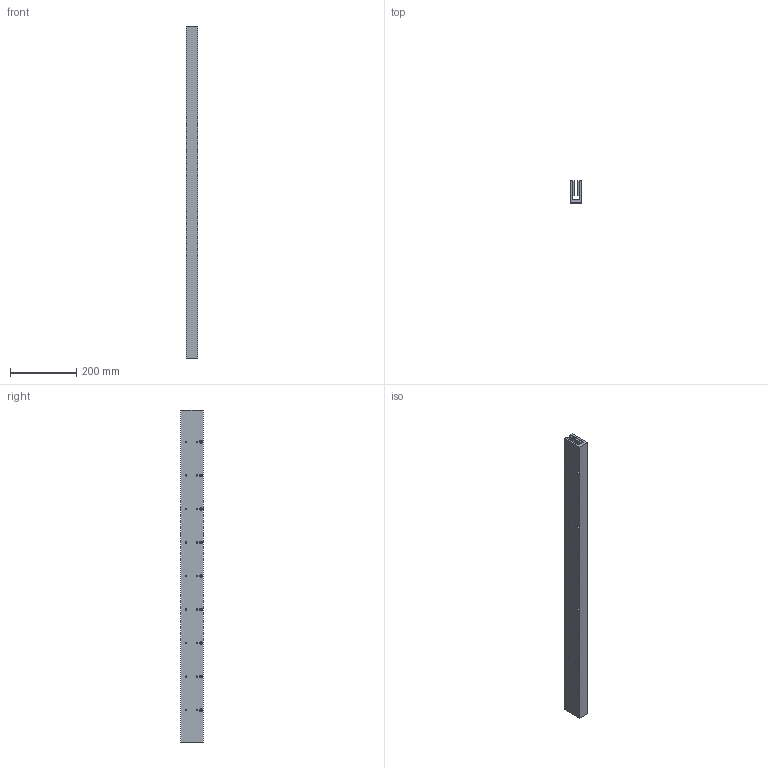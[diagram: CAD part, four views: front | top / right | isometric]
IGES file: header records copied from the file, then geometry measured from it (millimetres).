
Global section: file name: No Iges File Name specified; native system: Autodesk Inventor 2009; preprocessor: AutoDesk Inventor Iges Exporter R2009; author: je17857; date: 20091116.111554; units: inch
Bounding box: 34.29 x 67.31 x 1005.84 mm (x, y, z)
Volume: 1505245.8 mm3; surface area: 378103.3 mm2
Topology: 1 solids, 1 shells, 502 faces, 1194 edges, 796 vertices
Faces by surface type: plane 358, bspline 144
